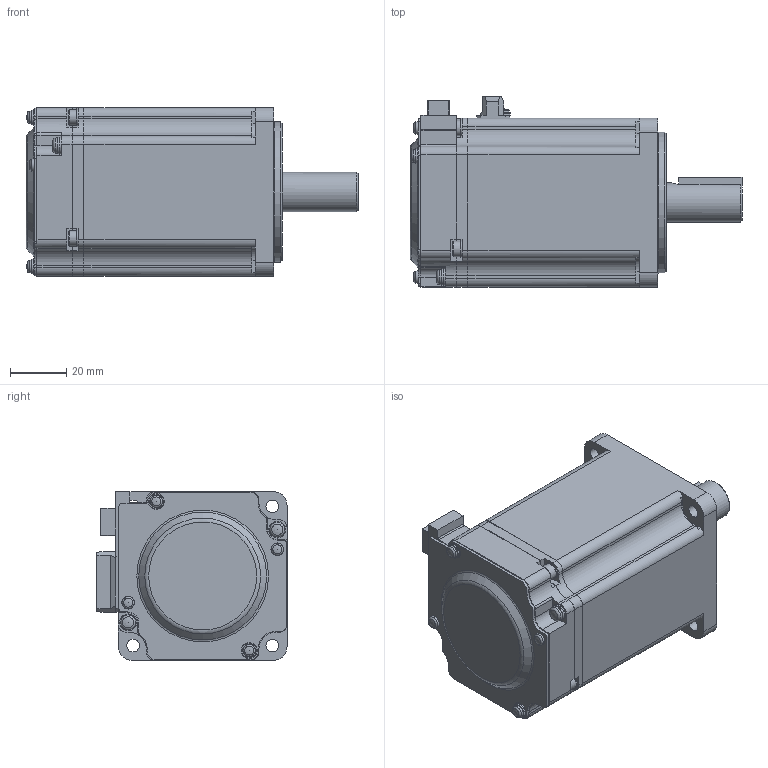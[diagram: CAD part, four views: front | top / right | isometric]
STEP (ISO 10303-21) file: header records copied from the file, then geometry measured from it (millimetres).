
FILE_DESCRIPTION( ( 'STEP AP214' ), ' ' );
FILE_NAME( 'p:/temp/worker_253/3140_2788/app_61_12016081613343624544836260eae72_000000_00_00_000000/format_0/MHMF042L1U1 20.stp', '2016-08-16T11:34:39', ( '' ), ( '' ), ' ', 'PARTsolutions', ' ' );
FILE_SCHEMA( ( 'AUTOMOTIVE_DESIGN { 1 0 10303 214 1 1 1 1 }' ) );
Length unit declared in the file: millimetre
Products named in the file (2): MHMF042L1U1 20; _MHMF042L1U2con
Assembly tree (1 placements, depth 2):
  MHMF042L1U1 20
    _MHMF042L1U2con
Bounding box: 118 x 67.6 x 60 mm (x, y, z)
Volume: 290603.2 mm3; surface area: 31539.5 mm2
Topology: 1 solids, 1 shells, 527 faces, 1405 edges, 926 vertices
Faces by surface type: plane 349, cylinder 127, cone 31, torus 10, sphere 10
Full cylindrical faces by diameter (mm): 1.2 x3, 1.567 x8, 3.1 x1, 4.134 x1, 4.3 x1, 4.4 x1, 4.5 x4, 5.2 x2, 5.5 x4, 5.7 x2, 5.9 x2, 6 x6, 14 x1, 14.9 x1, 18 x1, 50 x1
Entity records: 19938 total; most frequent: CARTESIAN_POINT 2757, DIRECTION 2650, ORIENTED_EDGE 2562, EDGE_CURVE 1281, LINE 964, VECTOR 964, VERTEX_POINT 910, AXIS2_PLACEMENT_3D 843
